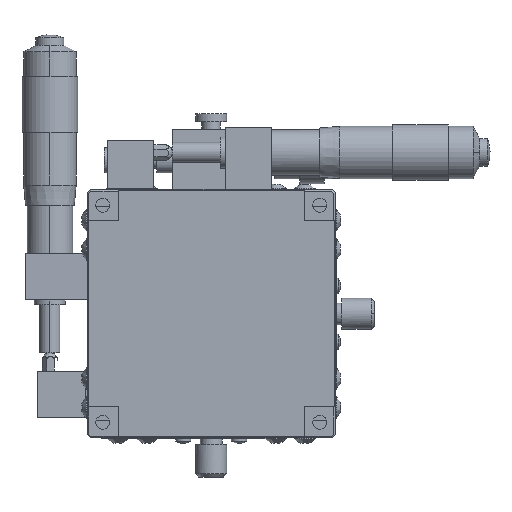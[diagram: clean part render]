
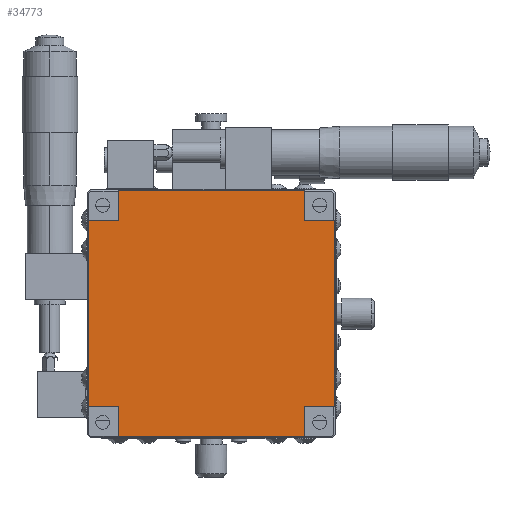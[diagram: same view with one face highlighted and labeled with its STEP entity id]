
A CAD part, front view. The second image highlights one B-rep face of the part: STEP entity #34773.
In plain terms, the highlighted planar face has unit normal (0, -1, 0).
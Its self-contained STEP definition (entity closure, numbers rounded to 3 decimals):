
#169 = EDGE_CURVE ( 'NONE', #55281, #26437, #44486, .T. ) ;
#1105 = CARTESIAN_POINT ( 'NONE',  ( 13.155, -46.276, 76.765 ) ) ;
#1659 = DIRECTION ( 'NONE',  ( 1., 0., 0. ) ) ;
#1683 = VECTOR ( 'NONE', #42014, 1000. ) ;
#2061 = DIRECTION ( 'NONE',  ( -1., 0., 0. ) ) ;
#3881 = ORIENTED_EDGE ( 'NONE', *, *, #24652, .T. ) ;
#5439 = VERTEX_POINT ( 'NONE', #19580 ) ;
#6385 = CARTESIAN_POINT ( 'NONE',  ( 22.855, -46.276, 76.765 ) ) ;
#6819 = CARTESIAN_POINT ( 'NONE',  ( 22.855, -46.276, 86.465 ) ) ;
#7574 = DIRECTION ( 'NONE',  ( 0., 0., -1. ) ) ;
#7689 = LINE ( 'NONE', #21682, #34417 ) ;
#8840 = ORIENTED_EDGE ( 'NONE', *, *, #51808, .T. ) ;
#9670 = VECTOR ( 'NONE', #51158, 1000. ) ;
#9732 = EDGE_CURVE ( 'NONE', #13167, #27538, #32038, .T. ) ;
#11383 = EDGE_CURVE ( 'NONE', #22007, #55281, #28498, .T. ) ;
#12367 = CARTESIAN_POINT ( 'NONE',  ( -46.845, -46.276, 156.165 ) ) ;
#12417 = VECTOR ( 'NONE', #49509, 1000. ) ;
#12816 = DIRECTION ( 'NONE',  ( 0., 0., -1. ) ) ;
#12920 = LINE ( 'NONE', #42377, #1683 ) ;
#13167 = VERTEX_POINT ( 'NONE', #34906 ) ;
#13874 = DIRECTION ( 'NONE',  ( 1., 0., 0. ) ) ;
#14235 = FACE_OUTER_BOUND ( 'NONE', #42738, .T. ) ;
#15545 = ORIENTED_EDGE ( 'NONE', *, *, #24560, .T. ) ;
#16943 = CARTESIAN_POINT ( 'NONE',  ( 13.155, -46.276, 156.165 ) ) ;
#17211 = LINE ( 'NONE', #36836, #37607 ) ;
#17711 = ORIENTED_EDGE ( 'NONE', *, *, #11383, .T. ) ;
#18109 = EDGE_CURVE ( 'NONE', #51130, #33273, #17211, .T. ) ;
#18569 = CARTESIAN_POINT ( 'NONE',  ( -56.545, -46.276, 86.465 ) ) ;
#19580 = CARTESIAN_POINT ( 'NONE',  ( 13.155, -46.276, 86.465 ) ) ;
#19620 = CARTESIAN_POINT ( 'NONE',  ( -46.845, -46.276, 146.465 ) ) ;
#20095 = VECTOR ( 'NONE', #1659, 1000. ) ;
#20559 = AXIS2_PLACEMENT_3D ( 'NONE', #51852, #43584, #38903 ) ;
#21598 = LINE ( 'NONE', #48166, #12417 ) ;
#21682 = CARTESIAN_POINT ( 'NONE',  ( 13.155, -46.276, 156.165 ) ) ;
#21779 = ORIENTED_EDGE ( 'NONE', *, *, #47929, .T. ) ;
#21938 = LINE ( 'NONE', #45968, #26154 ) ;
#22007 = VERTEX_POINT ( 'NONE', #16943 ) ;
#22065 = VECTOR ( 'NONE', #24755, 1000. ) ;
#23251 = CARTESIAN_POINT ( 'NONE',  ( 22.855, -46.276, 86.465 ) ) ;
#23564 = CARTESIAN_POINT ( 'NONE',  ( -46.845, -46.276, 156.165 ) ) ;
#23974 = VERTEX_POINT ( 'NONE', #23251 ) ;
#24027 = DIRECTION ( 'NONE',  ( -1., 0., 0. ) ) ;
#24122 = ORIENTED_EDGE ( 'NONE', *, *, #38453, .T. ) ;
#24560 = EDGE_CURVE ( 'NONE', #33273, #13167, #41577, .T. ) ;
#24652 = EDGE_CURVE ( 'NONE', #31355, #51130, #38004, .T. ) ;
#24755 = DIRECTION ( 'NONE',  ( 1., 0., 0. ) ) ;
#26154 = VECTOR ( 'NONE', #24027, 1000. ) ;
#26437 = VERTEX_POINT ( 'NONE', #19620 ) ;
#26890 = CARTESIAN_POINT ( 'NONE',  ( -46.845, -46.276, 86.465 ) ) ;
#27538 = VERTEX_POINT ( 'NONE', #1105 ) ;
#27921 = EDGE_CURVE ( 'NONE', #23974, #43979, #21598, .T. ) ;
#28498 = LINE ( 'NONE', #42535, #53751 ) ;
#29654 = VECTOR ( 'NONE', #46105, 1000. ) ;
#30133 = ORIENTED_EDGE ( 'NONE', *, *, #169, .T. ) ;
#31355 = VERTEX_POINT ( 'NONE', #49883 ) ;
#32038 = LINE ( 'NONE', #6385, #20095 ) ;
#32905 = EDGE_CURVE ( 'NONE', #51456, #22007, #12920, .T. ) ;
#33273 = VERTEX_POINT ( 'NONE', #26890 ) ;
#34065 = EDGE_CURVE ( 'NONE', #5439, #23974, #49397, .T. ) ;
#34417 = VECTOR ( 'NONE', #53046, 1000. ) ;
#34773 = ADVANCED_FACE ( 'NONE', ( #14235 ), #38316, .T. ) ;
#34906 = CARTESIAN_POINT ( 'NONE',  ( -46.845, -46.276, 76.765 ) ) ;
#34944 = ORIENTED_EDGE ( 'NONE', *, *, #9732, .T. ) ;
#34982 = LINE ( 'NONE', #37214, #9670 ) ;
#35660 = ORIENTED_EDGE ( 'NONE', *, *, #27921, .T. ) ;
#36836 = CARTESIAN_POINT ( 'NONE',  ( 22.855, -46.276, 86.465 ) ) ;
#37214 = CARTESIAN_POINT ( 'NONE',  ( 22.855, -46.276, 146.465 ) ) ;
#37607 = VECTOR ( 'NONE', #13874, 1000. ) ;
#38004 = LINE ( 'NONE', #43890, #45721 ) ;
#38108 = ORIENTED_EDGE ( 'NONE', *, *, #34065, .T. ) ;
#38316 = PLANE ( 'NONE',  #20559 ) ;
#38453 = EDGE_CURVE ( 'NONE', #27538, #5439, #7689, .T. ) ;
#38903 = DIRECTION ( 'NONE',  ( 0., 0., -1. ) ) ;
#40239 = ORIENTED_EDGE ( 'NONE', *, *, #18109, .T. ) ;
#41577 = LINE ( 'NONE', #23564, #29654 ) ;
#42014 = DIRECTION ( 'NONE',  ( 0., 0., 1. ) ) ;
#42377 = CARTESIAN_POINT ( 'NONE',  ( 13.155, -46.276, 156.165 ) ) ;
#42535 = CARTESIAN_POINT ( 'NONE',  ( 22.855, -46.276, 156.165 ) ) ;
#42738 = EDGE_LOOP ( 'NONE', ( #8840, #3881, #40239, #15545, #34944, #24122, #38108, #35660, #21779, #52329, #17711, #30133 ) ) ;
#43584 = DIRECTION ( 'NONE',  ( 0., -1., 0. ) ) ;
#43890 = CARTESIAN_POINT ( 'NONE',  ( -56.545, -46.276, 156.165 ) ) ;
#43979 = VERTEX_POINT ( 'NONE', #57780 ) ;
#44486 = LINE ( 'NONE', #52082, #57865 ) ;
#45721 = VECTOR ( 'NONE', #7574, 1000. ) ;
#45968 = CARTESIAN_POINT ( 'NONE',  ( 22.855, -46.276, 146.465 ) ) ;
#46105 = DIRECTION ( 'NONE',  ( 0., 0., -1. ) ) ;
#47929 = EDGE_CURVE ( 'NONE', #43979, #51456, #21938, .T. ) ;
#48166 = CARTESIAN_POINT ( 'NONE',  ( 22.855, -46.276, 156.165 ) ) ;
#49397 = LINE ( 'NONE', #6819, #22065 ) ;
#49509 = DIRECTION ( 'NONE',  ( 0., 0., 1. ) ) ;
#49883 = CARTESIAN_POINT ( 'NONE',  ( -56.545, -46.276, 146.465 ) ) ;
#51130 = VERTEX_POINT ( 'NONE', #18569 ) ;
#51158 = DIRECTION ( 'NONE',  ( -1., 0., 0. ) ) ;
#51456 = VERTEX_POINT ( 'NONE', #52378 ) ;
#51808 = EDGE_CURVE ( 'NONE', #26437, #31355, #34982, .T. ) ;
#51852 = CARTESIAN_POINT ( 'NONE',  ( 22.855, -46.276, 156.165 ) ) ;
#52082 = CARTESIAN_POINT ( 'NONE',  ( -46.845, -46.276, 156.165 ) ) ;
#52329 = ORIENTED_EDGE ( 'NONE', *, *, #32905, .T. ) ;
#52378 = CARTESIAN_POINT ( 'NONE',  ( 13.155, -46.276, 146.465 ) ) ;
#53046 = DIRECTION ( 'NONE',  ( 0., 0., 1. ) ) ;
#53751 = VECTOR ( 'NONE', #2061, 1000. ) ;
#55281 = VERTEX_POINT ( 'NONE', #12367 ) ;
#57780 = CARTESIAN_POINT ( 'NONE',  ( 22.855, -46.276, 146.465 ) ) ;
#57865 = VECTOR ( 'NONE', #12816, 1000. ) ;
